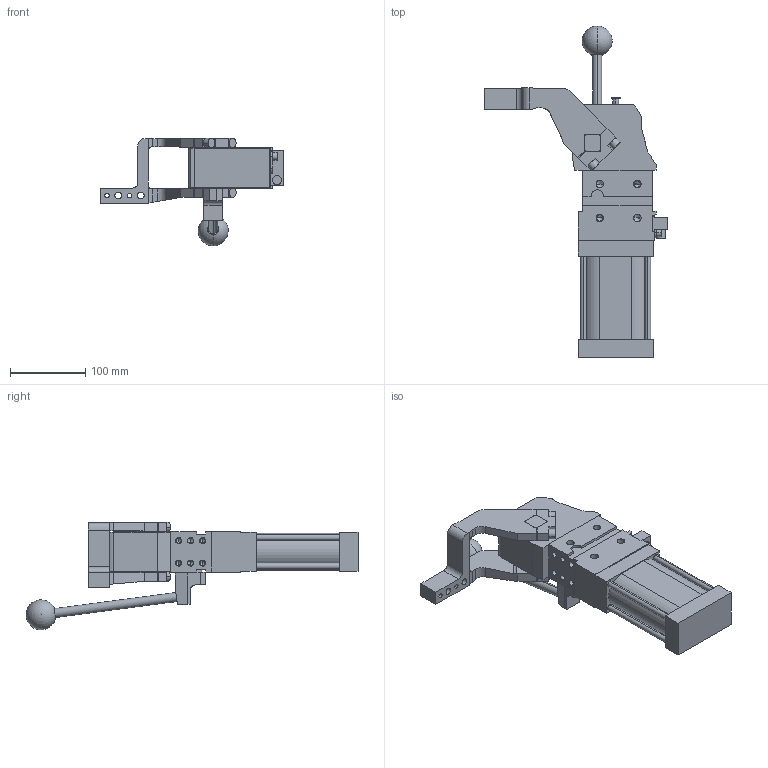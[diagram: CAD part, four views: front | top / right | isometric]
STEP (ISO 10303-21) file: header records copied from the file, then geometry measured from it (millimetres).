
FILE_DESCRIPTION (( 'STEP AP214' ), '1' );
FILE_NAME ('cplm63lbv3di1g_135.STEP', '2023-01-26T14:55:10', ( '' ), ( '' ), 'SwSTEP 2.0', 'SolidWorks 2022', '' );
FILE_SCHEMA (( 'AUTOMOTIVE_DESIGN' ));
Length unit declared in the file: millimetre
Products named in the file (5): cplm63lbv3di1g_135; meccanica_cplm_63; blocchetto_VEP_0; comando_manuale_cplm_63; leva_dx_offset_45_cpl63
Assembly tree (4 placements, depth 2):
  cplm63lbv3di1g_135
    meccanica_cplm_63
    blocchetto_VEP_0
    leva_dx_offset_45_cpl63
    comando_manuale_cplm_63
Bounding box: 244.5 x 442.23 x 143.5 mm (x, y, z)
Volume: 1887764.5 mm3; surface area: 211438.7 mm2
Topology: 4 solids, 4 shells, 432 faces, 1134 edges, 703 vertices
Faces by surface type: plane 219, cylinder 161, cone 50, sphere 2
Entity records: 14577 total; most frequent: CARTESIAN_POINT 2322, DIRECTION 2302, ORIENTED_EDGE 2166, EDGE_CURVE 1083, AXIS2_PLACEMENT_3D 794, VECTOR 714, LINE 714, VERTEX_POINT 700
